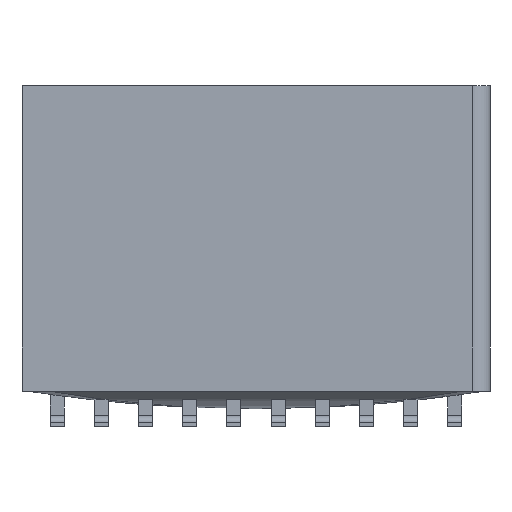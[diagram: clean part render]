
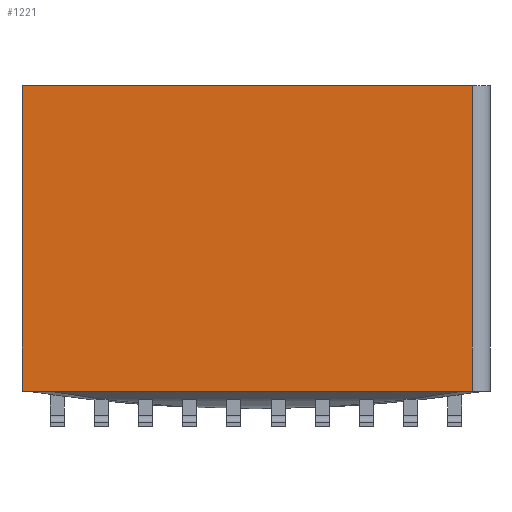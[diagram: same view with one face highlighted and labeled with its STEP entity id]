
A CAD part, front view. The second image highlights one B-rep face of the part: STEP entity #1221.
In plain terms, the highlighted planar face has unit normal (0, -1, 0).
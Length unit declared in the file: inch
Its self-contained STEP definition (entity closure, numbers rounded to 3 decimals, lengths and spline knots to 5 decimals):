
#688 = LINE ( 'NONE', #6764, #5139 ) ;
#960 = DIRECTION ( 'NONE',  ( 1., 0., 0. ) ) ;
#1165 = CARTESIAN_POINT ( 'NONE',  ( 0.1225, -0.035, 0.0865 ) ) ;
#1217 = LINE ( 'NONE', #4970, #3306 ) ;
#1221 = ADVANCED_FACE ( 'NONE', ( #11584 ), #5967, .T. ) ;
#1395 = EDGE_CURVE ( 'NONE', #3971, #7566, #1217, .T. ) ;
#2381 = VECTOR ( 'NONE', #8811, 39.37008 ) ;
#2522 = CARTESIAN_POINT ( 'NONE',  ( -0.1325, -0.035, -0.0865 ) ) ;
#3032 = DIRECTION ( 'NONE',  ( -1., 0., 0. ) ) ;
#3261 = DIRECTION ( 'NONE',  ( 0., 0., -1. ) ) ;
#3306 = VECTOR ( 'NONE', #3032, 39.37008 ) ;
#3971 = VERTEX_POINT ( 'NONE', #9742 ) ;
#4083 = EDGE_CURVE ( 'NONE', #4432, #9932, #6920, .T. ) ;
#4084 = DIRECTION ( 'NONE',  ( 0., 0., 1. ) ) ;
#4432 = VERTEX_POINT ( 'NONE', #7522 ) ;
#4970 = CARTESIAN_POINT ( 'NONE',  ( -0.4825, -0.035, -0.0865 ) ) ;
#5097 = ORIENTED_EDGE ( 'NONE', *, *, #6867, .F. ) ;
#5139 = VECTOR ( 'NONE', #4084, 39.37008 ) ;
#5967 = PLANE ( 'NONE',  #9012 ) ;
#6314 = CARTESIAN_POINT ( 'NONE',  ( -0.4825, -0.035, 0.0865 ) ) ;
#6364 = DIRECTION ( 'NONE',  ( 0., -1., 0. ) ) ;
#6764 = CARTESIAN_POINT ( 'NONE',  ( 0.1225, -0.035, 0.0865 ) ) ;
#6867 = EDGE_CURVE ( 'NONE', #7566, #4432, #8997, .T. ) ;
#6920 = LINE ( 'NONE', #6314, #9039 ) ;
#7212 = ORIENTED_EDGE ( 'NONE', *, *, #1395, .F. ) ;
#7522 = CARTESIAN_POINT ( 'NONE',  ( -0.1325, -0.035, 0.0865 ) ) ;
#7566 = VERTEX_POINT ( 'NONE', #9582 ) ;
#8046 = EDGE_CURVE ( 'NONE', #3971, #9932, #688, .T. ) ;
#8811 = DIRECTION ( 'NONE',  ( 0., 0., 1. ) ) ;
#8984 = ORIENTED_EDGE ( 'NONE', *, *, #4083, .F. ) ;
#8997 = LINE ( 'NONE', #2522, #2381 ) ;
#9012 = AXIS2_PLACEMENT_3D ( 'NONE', #10455, #6364, #3261 ) ;
#9039 = VECTOR ( 'NONE', #960, 39.37008 ) ;
#9582 = CARTESIAN_POINT ( 'NONE',  ( -0.1325, -0.035, -0.0865 ) ) ;
#9742 = CARTESIAN_POINT ( 'NONE',  ( 0.1225, -0.035, -0.0865 ) ) ;
#9752 = ORIENTED_EDGE ( 'NONE', *, *, #8046, .T. ) ;
#9932 = VERTEX_POINT ( 'NONE', #1165 ) ;
#10455 = CARTESIAN_POINT ( 'NONE',  ( -0.4825, -0.035, -0.0865 ) ) ;
#11418 = EDGE_LOOP ( 'NONE', ( #5097, #7212, #9752, #8984 ) ) ;
#11584 = FACE_OUTER_BOUND ( 'NONE', #11418, .T. ) ;
